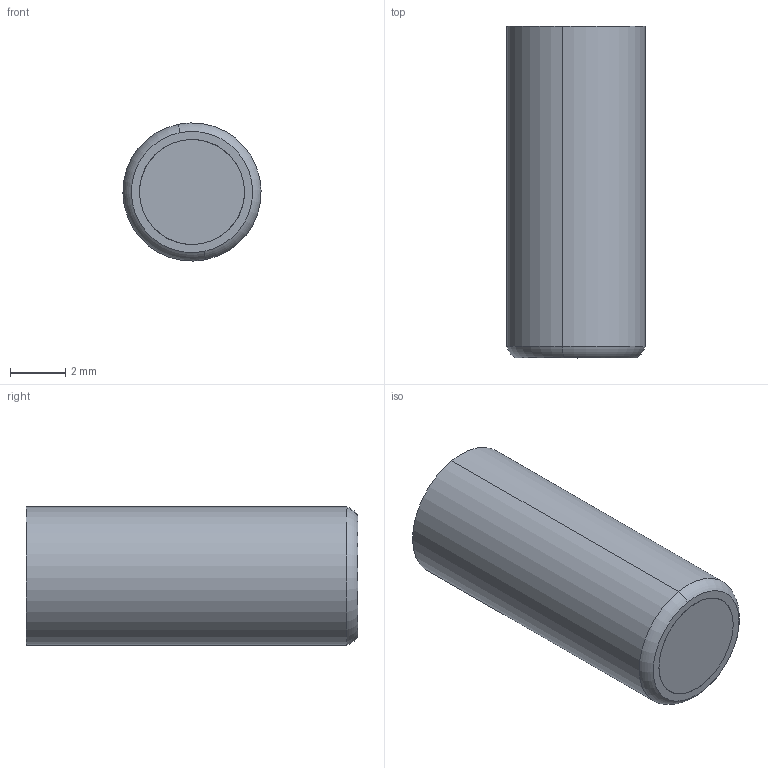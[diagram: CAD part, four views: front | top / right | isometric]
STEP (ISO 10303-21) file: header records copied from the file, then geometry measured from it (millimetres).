
FILE_DESCRIPTION (( 'STEP AP214' ), '1' );
FILE_NAME ('FA 053004-21.STEP', '2020-08-10T11:04:56', ( '' ), ( '' ), 'SwSTEP 2.0', 'SolidWorks 2019', '' );
FILE_SCHEMA (( 'AUTOMOTIVE_DESIGN' ));
Length unit declared in the file: millimetre
Products named in the file (6): IA 3075SF; FA 053000-3; FA 053004-21; FA 053000-2; FA 053004-14-1; FA 053000-1
Assembly tree (5 placements, depth 2):
  FA 053004-21
    FA 053004-14-1
    FA 053000-1
    IA 3075SF
    FA 053000-3
    FA 053000-2
Bounding box: 5 x 12 x 5 mm (x, y, z)
Volume: 204.6 mm3; surface area: 598.4 mm2
Topology: 5 solids, 5 shells, 196 faces, 482 edges, 316 vertices
Faces by surface type: plane 80, bspline 65, cylinder 37, cone 12, torus 2
Entity records: 10896 total; most frequent: CARTESIAN_POINT 6295, ORIENTED_EDGE 964, DIRECTION 722, EDGE_CURVE 482, VERTEX_POINT 316, VECTOR 256, LINE 256, AXIS2_PLACEMENT_3D 233
